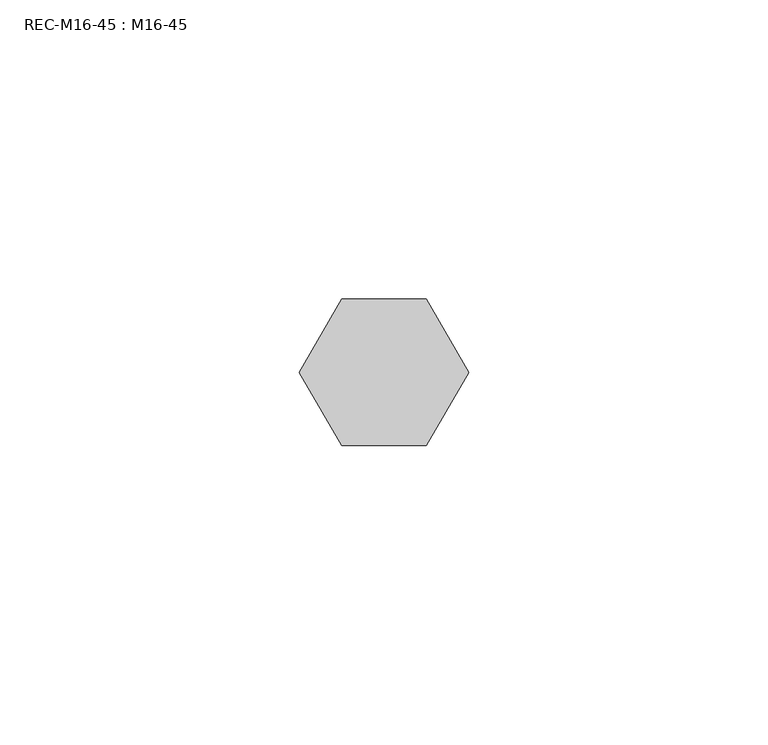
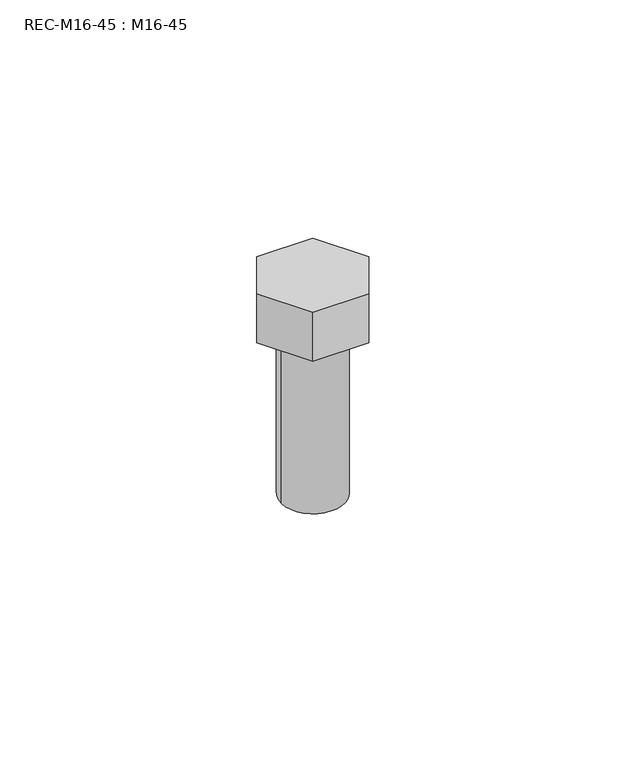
"""IFC4 building model written with IfcOpenShell, lengths in millimetres: fastener geometry, REC-M16-45 : M16-45."""

from ifc_helpers import new_model, si_unit, point, frame, origin, origin_with_axes, origin_2d, place, context, project, spatial, polyline, circle_curve, trimmed, segment, composite_curve, outline, extrude, source, transform, mapped, element, save


def rec_m16_45_m16_45_58386a80(model_context):
    return source(origin(), model_context, "Body", "SweptSolid", [
        extrude(outline(polyline([(-7.0686036, -12.2431805), (-14.1372072, 0.0), (-7.0686036, 12.2431805), (7.0686036, 12.2431805), (14.1372072, 0.0), (7.0686036, -12.2431805), (-7.0686036, -12.2431805)])), origin_with_axes(), (0.0, 0.0, 1.0), 13.0),
        extrude(outline(composite_curve([segment(trimmed(circle_curve(origin_2d(), 8.0), [point((-8.0, 0.0))], [point((8.0, 0.0))], False, "CARTESIAN"), True, "CONTINUOUS"), segment(trimmed(circle_curve(origin_2d(), 8.0), [point((8.0, 0.0))], [point((-8.0, 0.0))], False, "CARTESIAN"), True, "CONTINUOUS")], self_intersect=False)), frame((0.0, 0.0, -45.0), z_axis=(0.0, 0.0, 1.0), x_axis=(1.0, 0.0, 0.0)), (0.0, 0.0, 1.0), 45.0),
    ])


if __name__ == "__main__":
    model = new_model("IFC4")
    model_context = context("Model", 3, world=origin())
    ifc_project = project(units=[si_unit("LENGTHUNIT", "METRE", prefix="MILLI")], contexts=[model_context])
    site = spatial("IfcSite", under=ifc_project)
    building = spatial("IfcBuilding", under=site)
    placement = place(None, origin())
    rec_m16_45_m16_45_shape = rec_m16_45_m16_45_58386a80(model_context)
    element("IfcFastener", 1, ObjectType="REC-M16-45 : M16-45", at=placement, inside=building, context=model_context, shape_type="MappedRepresentation", body=[
        mapped(rec_m16_45_m16_45_shape, transform((0.0, 0.0, 0.0), x_axis=(1.0, 0.0, 0.0), y_axis=(0.0, 1.0, 0.0), z_axis=(0.0, 0.0, 1.0))),
    ])
    save(model, "model.ifc")
